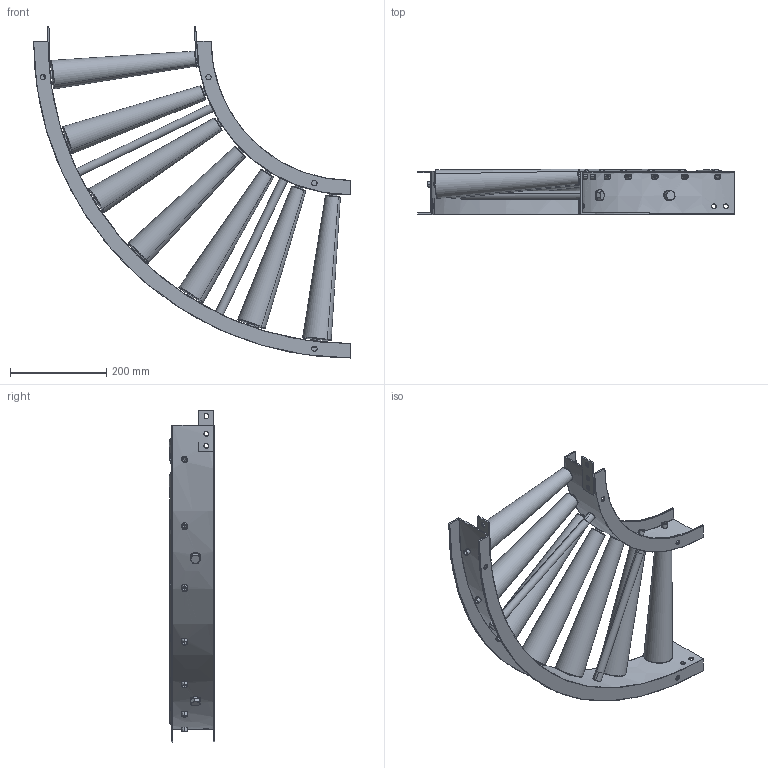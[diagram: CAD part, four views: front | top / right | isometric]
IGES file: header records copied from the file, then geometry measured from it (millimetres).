
Start section: SolidWorks IGES file using analytic representation for surfaces
Global section: file name: C:\Users\0656\Desktop\変換ツール\iges変換\S-TC320_C.igs; native system: SolidWorks 2023; preprocessor: SolidWorks 2023; author: 0656; date: 240302.141351; units: millimetre
Bounding box: 660 x 94.31 x 691.57 mm (x, y, z)
Surface area: 1083963 mm2 (no closed solid volume)
Topology: 0 solids, 0 shells, 422 faces, 9212 edges, 9212 vertices
Faces by surface type: revolution 225, bspline 197
